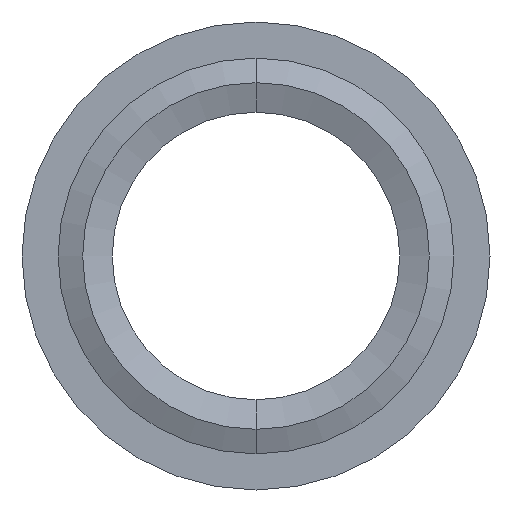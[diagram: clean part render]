
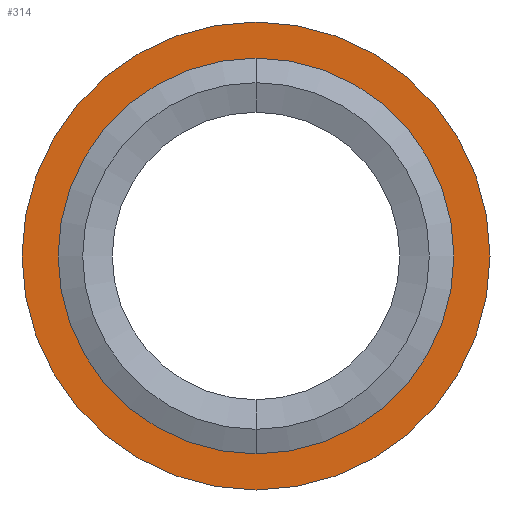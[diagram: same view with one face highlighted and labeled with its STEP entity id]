
A CAD part, front view. The second image highlights one B-rep face of the part: STEP entity #314.
In plain terms, the highlighted planar face has unit normal (0, -1, 0).
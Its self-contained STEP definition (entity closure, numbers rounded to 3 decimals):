
#13 = CARTESIAN_POINT ( 'NONE',  ( 0., 0.3, -7. ) ) ;
#19 = VERTEX_POINT ( 'NONE', #102 ) ;
#27 = EDGE_CURVE ( 'NONE', #19, #398, #465, .T. ) ;
#47 = CIRCLE ( 'NONE', #566, 7. ) ;
#49 = CIRCLE ( 'NONE', #522, 5.92 ) ;
#56 = AXIS2_PLACEMENT_3D ( 'NONE', #315, #330, #339 ) ;
#100 = CIRCLE ( 'NONE', #56, 7. ) ;
#102 = CARTESIAN_POINT ( 'NONE',  ( 0., 0.3, 5.92 ) ) ;
#121 = EDGE_CURVE ( 'NONE', #523, #514, #100, .T. ) ;
#140 = DIRECTION ( 'NONE',  ( 0., 0., -1. ) ) ;
#143 = AXIS2_PLACEMENT_3D ( 'NONE', #475, #480, #261 ) ;
#150 = FACE_BOUND ( 'NONE', #643, .T. ) ;
#184 = DIRECTION ( 'NONE',  ( 0., -1., 0. ) ) ;
#198 = EDGE_CURVE ( 'NONE', #398, #19, #49, .T. ) ;
#227 = DIRECTION ( 'NONE',  ( 0., -1., 0. ) ) ;
#229 = CARTESIAN_POINT ( 'NONE',  ( 0., 0.3, 0. ) ) ;
#247 = AXIS2_PLACEMENT_3D ( 'NONE', #338, #227, #258 ) ;
#250 = CARTESIAN_POINT ( 'NONE',  ( 0., 0.3, -5.92 ) ) ;
#258 = DIRECTION ( 'NONE',  ( 0., 0., -1. ) ) ;
#261 = DIRECTION ( 'NONE',  ( 0., 0., -1. ) ) ;
#303 = ORIENTED_EDGE ( 'NONE', *, *, #121, .T. ) ;
#314 = ADVANCED_FACE ( 'NONE', ( #360, #150 ), #354, .T. ) ;
#315 = CARTESIAN_POINT ( 'NONE',  ( 0., 0.3, 0. ) ) ;
#330 = DIRECTION ( 'NONE',  ( 0., -1., 0. ) ) ;
#338 = CARTESIAN_POINT ( 'NONE',  ( 5.92, 0.3, 0. ) ) ;
#339 = DIRECTION ( 'NONE',  ( 0., 0., -1. ) ) ;
#354 = PLANE ( 'NONE',  #247 ) ;
#360 = FACE_OUTER_BOUND ( 'NONE', #518, .T. ) ;
#398 = VERTEX_POINT ( 'NONE', #250 ) ;
#439 = CARTESIAN_POINT ( 'NONE',  ( 0., 0.3, 0. ) ) ;
#465 = CIRCLE ( 'NONE', #143, 5.92 ) ;
#475 = CARTESIAN_POINT ( 'NONE',  ( 0., 0.3, 0. ) ) ;
#480 = DIRECTION ( 'NONE',  ( 0., -1., 0. ) ) ;
#514 = VERTEX_POINT ( 'NONE', #13 ) ;
#518 = EDGE_LOOP ( 'NONE', ( #559, #303 ) ) ;
#522 = AXIS2_PLACEMENT_3D ( 'NONE', #439, #649, #650 ) ;
#523 = VERTEX_POINT ( 'NONE', #546 ) ;
#546 = CARTESIAN_POINT ( 'NONE',  ( 0., 0.3, 7. ) ) ;
#559 = ORIENTED_EDGE ( 'NONE', *, *, #570, .T. ) ;
#566 = AXIS2_PLACEMENT_3D ( 'NONE', #229, #184, #140 ) ;
#570 = EDGE_CURVE ( 'NONE', #514, #523, #47, .T. ) ;
#624 = ORIENTED_EDGE ( 'NONE', *, *, #198, .F. ) ;
#631 = ORIENTED_EDGE ( 'NONE', *, *, #27, .F. ) ;
#643 = EDGE_LOOP ( 'NONE', ( #631, #624 ) ) ;
#649 = DIRECTION ( 'NONE',  ( 0., -1., 0. ) ) ;
#650 = DIRECTION ( 'NONE',  ( 0., 0., -1. ) ) ;
